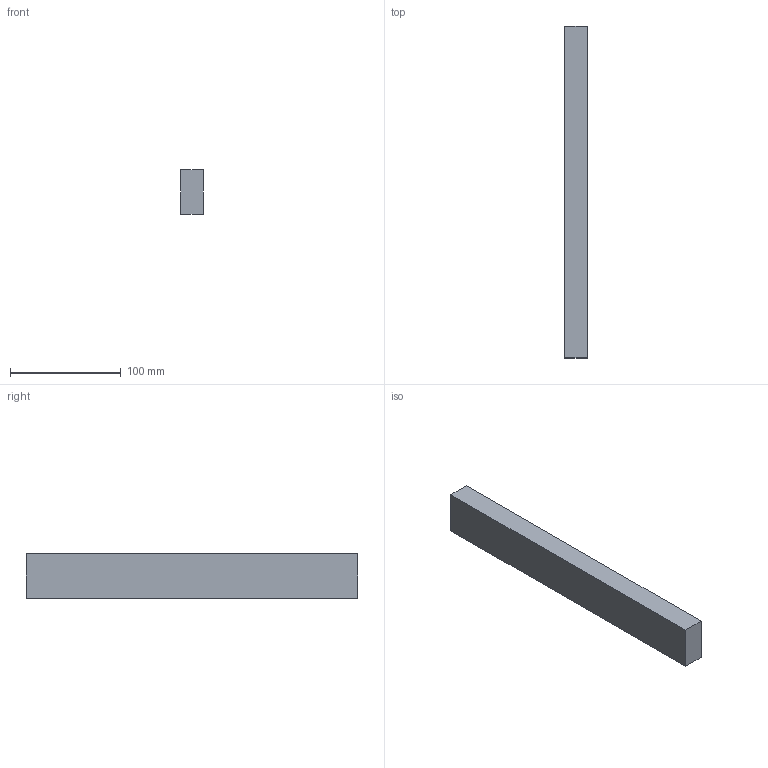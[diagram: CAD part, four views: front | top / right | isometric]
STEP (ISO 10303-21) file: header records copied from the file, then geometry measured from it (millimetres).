
FILE_DESCRIPTION(/* description */ ('STEP AP242','CAx-IF Rec.Pracs.---Representation and Presentation of Product Manufacturing Information (PMI)---4.0---2014-10-13','CAx-IF Rec.Pracs.---3D Tessellated Geometry---0.4---2014-09-14','2;1','CAx-IF Rec.Pracs.---User Defined Attributes---1.5---2016-08-15'),/* implementation_level */ '2;1');
FILE_NAME(/* name */ 'Full Assembly - Part 1 (11)',/* time_stamp */ '2025-11-03T04:00:12Z',/* author */ (''),/* organization */ (''),/* preprocessor_version */ 'ST-DEVELOPER v20',/* originating_system */ 'ONSHAPE BY PTC INC, 1.206',/* authorisation */ ' ');
FILE_SCHEMA (('AP242_MANAGED_MODEL_BASED_3D_ENGINEERING_MIM_LF { 1 0 10303 442 1 1 4 }'));
Length unit declared in the file: metre
Products named in the file (1): Part 1
Bounding box: 20 x 300 x 40 mm (x, y, z)
Volume: 240000 mm3; surface area: 37600 mm2
Topology: 1 solids, 1 shells, 6 faces, 12 edges, 8 vertices
Faces by surface type: plane 6
Entity records: 178 total; most frequent: CARTESIAN_POINT 27, DIRECTION 26, ORIENTED_EDGE 24, EDGE_CURVE 12, LINE 12, VECTOR 12, VERTEX_POINT 8, AXIS2_PLACEMENT_3D 7
